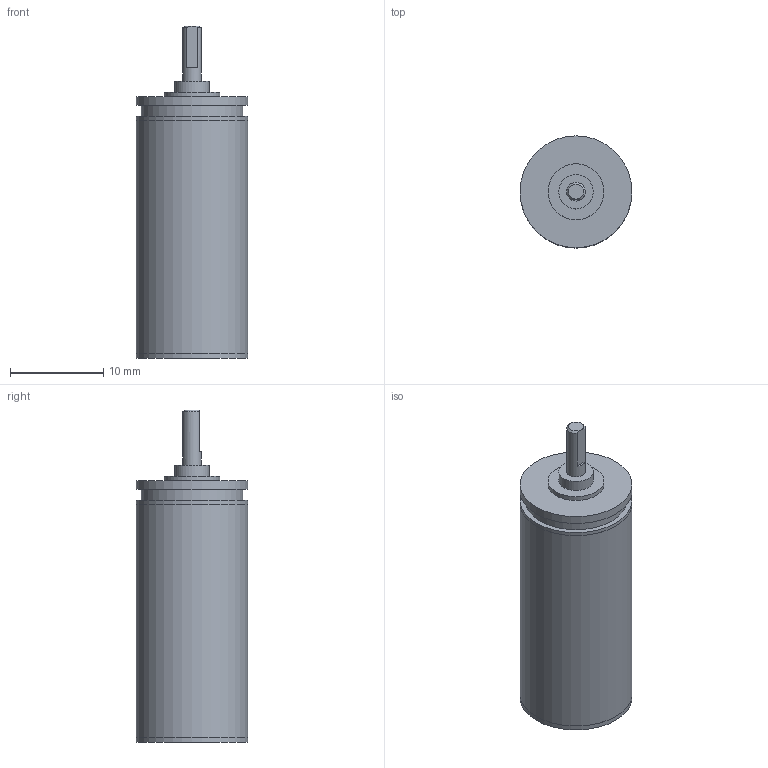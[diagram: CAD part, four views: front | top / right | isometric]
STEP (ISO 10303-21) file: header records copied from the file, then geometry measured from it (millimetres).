
FILE_DESCRIPTION(/* description */ (''),/* implementation_level */ '2;1');
FILE_NAME(/* name */ '12-3_9.stp',/* time_stamp */ '2016-08-24T10:12:46+02:00',/* author */ ('DR. FRITZ FAULHABER GmbH & Co. KG'),/* organization */ ('DR. FRITZ FAULHABER GmbH & Co. KG'),/* preprocessor_version */ 'ST-DEVELOPER v16',/* originating_system */ 'SIEMENS PLM Software NX 10.0',/* authorisation */ '');
FILE_SCHEMA (('AUTOMOTIVE_DESIGN { 1 0 10303 214 3 1 1 1 }'));
Length unit declared in the file: millimetre
Products named in the file (1): H00000572_A
Bounding box: 12 x 12 x 35.6 mm (x, y, z)
Volume: 3116.1 mm3; surface area: 1443.9 mm2
Topology: 1 solids, 1 shells, 32 faces, 52 edges, 34 vertices
Faces by surface type: plane 16, cylinder 14, cone 2
Full cylindrical faces by diameter (mm): 2 x1, 2.48 x1, 2.6 x1, 3.7 x1, 5 x1, 6 x2, 10.88 x1, 11.99 x2, 12 x4
Entity records: 692 total; most frequent: DIRECTION 129, CARTESIAN_POINT 115, ORIENTED_EDGE 70, AXIS2_PLACEMENT_3D 63, EDGE_LOOP 59, FACE_BOUND 54, EDGE_CURVE 35, ADVANCED_FACE 32
